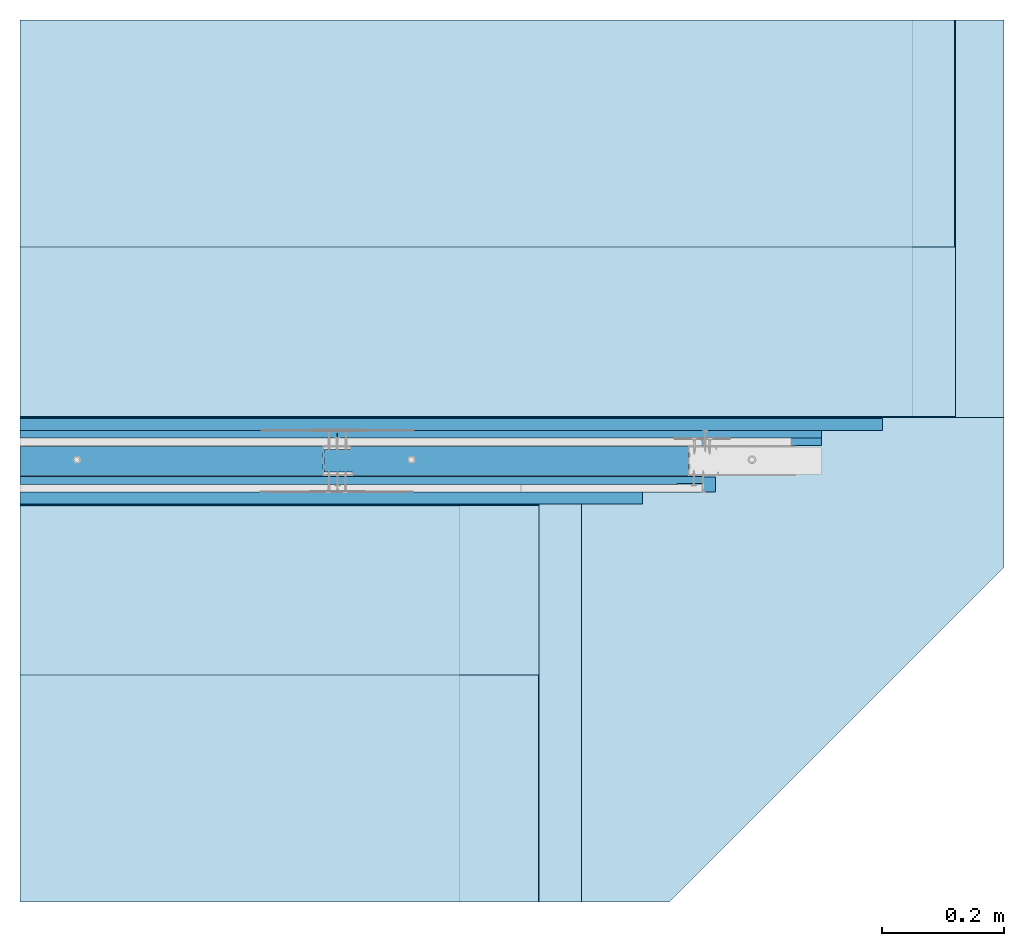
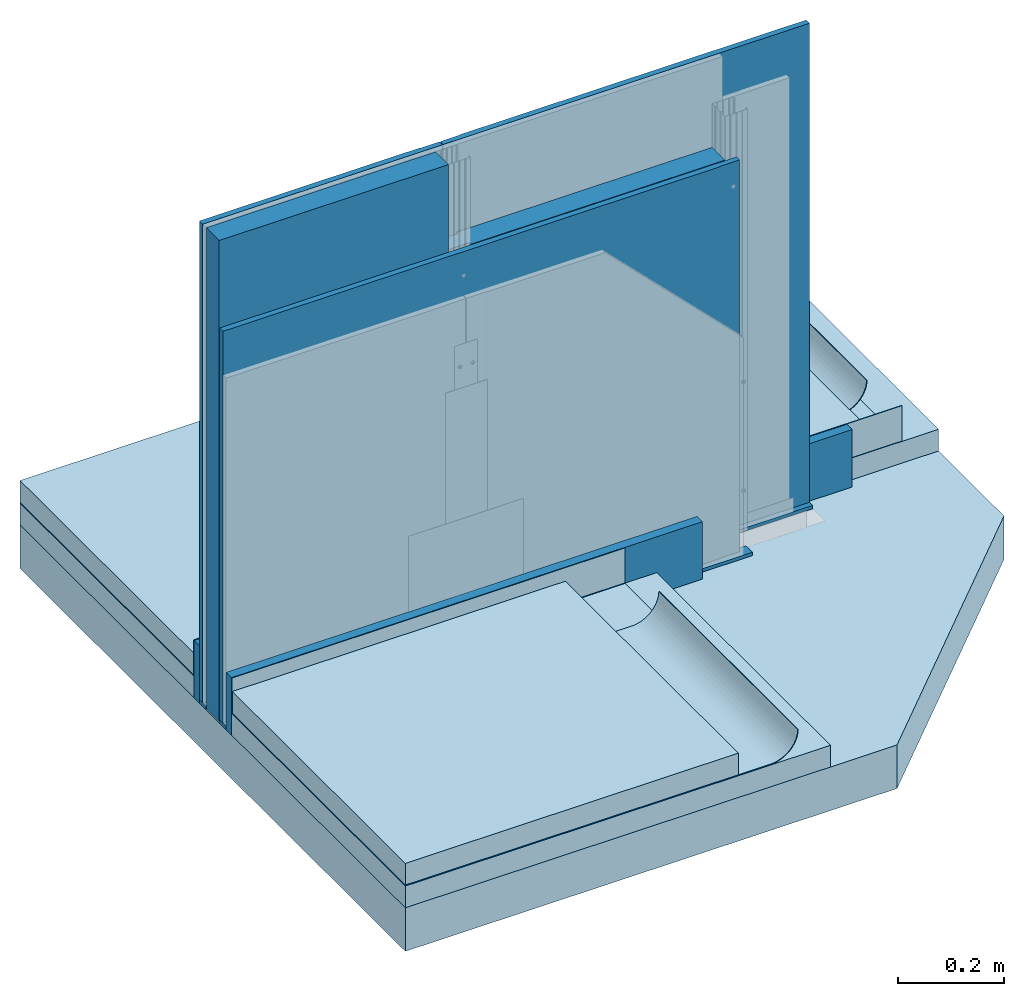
# One storey, part 1 of 37: 11 slabs, 7 walls.
"""IFC2X3 building model written with IfcOpenShell, lengths in millimetres."""

from ifc_helpers import new_model, entity, si_unit, converted_unit, direction, frame, origin, origin_with_axes, place, context, project, spatial, faceted_brep, element, save


model = new_model("IFC2X3")

# Units and contexts
model_context = context("Model", 3, precision=1e-05, world=origin(), true_north=direction((0.0, 1.0, 0.0)))
ifc_project = project(units=[si_unit("LENGTHUNIT", "METRE", prefix="MILLI"), si_unit("AREAUNIT", "SQUARE_METRE"), si_unit("VOLUMEUNIT", "CUBIC_METRE"), converted_unit("PLANEANGLEUNIT", "DEGREE", entity("IfcPlaneAngleMeasure", 0.01745), si_unit("PLANEANGLEUNIT", "RADIAN"), dimensions=[0, 0, 0, 0, 0, 0, 0]), si_unit("SOLIDANGLEUNIT", "STERADIAN"), si_unit("MASSUNIT", "GRAM"), si_unit("TIMEUNIT", "SECOND"), si_unit("THERMODYNAMICTEMPERATUREUNIT", "DEGREE_CELSIUS"), si_unit("LUMINOUSINTENSITYUNIT", "LUMEN")], contexts=[model_context])

# Site, building, storey
site_placement = place(None, origin_with_axes())
site = spatial("IfcSite", under=ifc_project, at=site_placement, Name="Default Site", CompositionType="ELEMENT")
building_placement = place(site_placement, origin_with_axes())
building = spatial("IfcBuilding", under=site, at=building_placement, Name="Default Building", CompositionType="ELEMENT")
storey_placement = place(building_placement, origin_with_axes())
storey = spatial("IfcBuildingStorey", under=building, at=storey_placement, Name="Default Building Storey", CompositionType="ELEMENT", Elevation=0.0)

# Slabs
slab_1_placement = place(storey_placement, frame((3516.951496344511, -1288.142300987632, 6.584025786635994), z_axis=(7.62017609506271e-14, 6.858158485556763e-13, 1.0), x_axis=(1.0, 9.714451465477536e-17, -7.62017609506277e-14)))
element("IfcSlab", 1, at=slab_1_placement, inside=storey, Name="STROP", context=model_context, shape_type="Brep", body=[
    faceted_brep([(226.0891218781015, 3110.283223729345, -4.200000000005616), (-323.9108781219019, 2560.283223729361, -4.200000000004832), (-323.9108781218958, 2560.283223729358, -104.1999999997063), (226.0891218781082, 3110.283223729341, -104.1999999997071), (-1391.926362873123, 2560.283223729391, -104.2000000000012), (-1391.926362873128, 2560.28322372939, -4.200000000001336), (-1391.926362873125, 4010.283223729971, -104.2000000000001), (226.0891218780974, 4010.283223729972, -104.2), (-1391.926362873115, 4010.283223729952, -4.199999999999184), (226.089121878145, 4010.283223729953, -4.200000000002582)], [[[0, 1, 2, 3]], [[4, 2, 1, 5]], [[6, 7, 3, 2, 4]], [[8, 5, 1, 0, 9]], [[0, 3, 7, 9]], [[6, 8, 9, 7]], [[6, 4, 5, 8]]]),
])
slab_2_placement = place(storey_placement, frame((3366.951496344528, -1288.14230098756, 158.5840257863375), z_axis=(7.620176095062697e-14, 6.858158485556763e-13, 1.0), x_axis=(1.0, 9.714451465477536e-17, -7.62017609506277e-14)))
element("IfcSlab", 2, at=slab_2_placement, inside=storey, Name="Wylewka betonowa WEBER", context=model_context, shape_type="Brep", body=[
    faceted_brep([(226.0891218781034, 3358.283223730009, -54.20000000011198), (-1241.926362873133, 3358.283223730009, -54.20000000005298), (-1241.926362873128, 3358.283223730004, -104.1999999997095), (226.0891218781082, 3358.283223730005, -104.1999999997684), (-1241.926362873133, 4010.283223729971, -104.2000000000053), (226.0891218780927, 4010.283223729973, -104.1999999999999), (-1241.926362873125, 4010.283223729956, -54.20000000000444), (226.0891218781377, 4010.283223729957, -54.20000000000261)], [[[0, 1, 2, 3]], [[4, 5, 3, 2]], [[6, 1, 0, 7]], [[0, 3, 5, 7]], [[4, 6, 7, 5]], [[4, 2, 1, 6]]]),
])
slab_3_placement = place(storey_placement, frame((3366.951496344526, -1288.142300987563, 106.5840257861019), z_axis=(7.620176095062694e-14, 6.858158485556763e-13, 1.0), x_axis=(1.0, 9.714451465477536e-17, -7.62017609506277e-14)))
element("IfcSlab", 3, at=slab_3_placement, inside=storey, Name="Wełna mineralna szklana lub skalna ISOVER", context=model_context, shape_type="Brep", body=[
    faceted_brep([(376.0891218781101, 3356.283223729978, -54.20000000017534), (-1241.926362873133, 3356.283223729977, -54.20000000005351), (-1241.926362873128, 3356.283223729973, -104.1999999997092), (376.0891218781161, 3356.283223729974, -104.1999999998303), (-1241.926362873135, 4010.283223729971, -104.2000000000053), (376.0891218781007, 4010.283223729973, -104.2000000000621), (-1241.926362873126, 4010.283223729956, -54.20000000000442), (376.0891218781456, 4010.283223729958, -54.20000000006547)], [[[0, 1, 2, 3]], [[4, 5, 3, 2]], [[6, 1, 0, 7]], [[0, 3, 5, 7]], [[4, 6, 7, 5]], [[4, 2, 1, 6]]]),
])
slab_4_placement = place(storey_placement, frame((2035.135384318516, 2067.140922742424, 112.3840257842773), z_axis=(-3.991906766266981e-16, -1.0, 7.606725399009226e-13), x_axis=(5.468922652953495e-13, -7.606725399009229e-13, -1.0)))
element("IfcSlab", 4, at=slab_4_placement, inside=storey, Name="Dylatacja ISOVER Twist", context=model_context, shape_type="Brep", body=[
    faceted_brep([(109.9999999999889, 89.88974915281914, 8.525771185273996e-15), (-21.99999999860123, 89.88974915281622, -1.43529706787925e-12), (-21.99999999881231, 1507.905233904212, -1.661758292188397e-12), (109.9999999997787, 1507.905233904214, 1.43020256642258e-13), (109.9999999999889, 89.88974915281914, 20.00000000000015), (109.9999999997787, 1507.905233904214, 20.00000000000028), (-21.99999999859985, 89.88974915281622, 19.99999999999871), (-21.99999999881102, 1507.905233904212, 19.99999999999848)], [[[0, 1, 2, 3]], [[4, 0, 3, 5]], [[6, 4, 5, 7]], [[1, 6, 7, 2]], [[2, 7, 5, 3]], [[6, 1, 0, 4]]]),
])
slab_5_placement = place(storey_placement, frame((2035.135384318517, 1946.180077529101, 112.3840257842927), z_axis=(-3.991906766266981e-16, -1.0, 7.606725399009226e-13), x_axis=(5.468922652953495e-13, -7.606725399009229e-13, -1.0)))
element("IfcSlab", 5, at=slab_5_placement, inside=storey, Name="Dylatacja ISOVER Twist", context=model_context, shape_type="Brep", body=[
    faceted_brep([(109.9999999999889, 89.88974915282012, 8.525771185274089e-15), (-21.99999999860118, 89.88974915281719, -1.43529706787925e-12), (-21.9999999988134, 1113.294264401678, -9.772745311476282e-13), (109.9999999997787, 1113.294264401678, 4.665483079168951e-13), (109.9999999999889, 89.88974915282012, 20.00000000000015), (109.9999999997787, 1113.294264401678, 20.00000000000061), (-21.99999999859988, 89.88974915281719, 19.99999999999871), (-21.99999999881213, 1113.294264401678, 19.99999999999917)], [[[0, 1, 2, 3]], [[4, 0, 3, 5]], [[6, 4, 5, 7]], [[1, 6, 7, 2]], [[2, 7, 5, 3]], [[6, 1, 0, 4]]]),
])
slab_6_placement = place(storey_placement, frame((2622.340526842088, -2087.142300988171, 158.5840257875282), z_axis=(7.620176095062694e-14, 6.858158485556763e-13, 1.0), x_axis=(1.0, 9.714451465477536e-17, -7.62017609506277e-14)))
element("IfcSlab", 6, at=slab_6_placement, inside=storey, Name="Wylewka betonowa WEBER", context=model_context, shape_type="Brep", body=[
    faceted_brep([(226.0891218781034, 3359.283223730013, -54.20000000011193), (-497.315393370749, 3359.283223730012, -54.20000000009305), (-497.3153933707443, 3359.283223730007, -104.1999999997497), (226.0891218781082, 3359.283223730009, -104.1999999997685), (-497.3153933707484, 4010.283223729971, -104.2000000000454), (226.0891218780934, 4010.283223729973, -104.1999999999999), (-497.3153933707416, 4010.283223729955, -54.20000000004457), (226.0891218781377, 4010.283223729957, -54.20000000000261)], [[[0, 1, 2, 3]], [[4, 5, 3, 2]], [[6, 1, 0, 7]], [[0, 3, 5, 7]], [[4, 6, 7, 5]], [[4, 2, 1, 6]]]),
])
slab_7_placement = place(storey_placement, frame((2672.340526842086, -2084.142300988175, 106.5840257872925), z_axis=(7.620176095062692e-14, 6.858158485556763e-13, 1.0), x_axis=(1.0, 9.714451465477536e-17, -7.62017609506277e-14)))
element("IfcSlab", 7, at=slab_7_placement, inside=storey, Name="Wełna mineralna szklana lub skalna ISOVER", context=model_context, shape_type="Brep", body=[
    faceted_brep([(376.0891218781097, 3356.283223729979, -54.20000000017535), (-547.3153933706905, 3356.283223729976, -54.20000000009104), (-547.3153933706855, 3356.283223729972, -104.1999999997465), (376.0891218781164, 3356.283223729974, -104.1999999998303), (-547.3153933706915, 4010.28322372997, -104.2000000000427), (376.0891218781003, 4010.283223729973, -104.2000000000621), (-547.3153933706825, 4010.283223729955, -54.20000000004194), (376.0891218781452, 4010.283223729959, -54.20000000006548)], [[[0, 1, 2, 3]], [[4, 5, 3, 2]], [[6, 1, 0, 7]], [[0, 3, 5, 7]], [[4, 6, 7, 5]], [[4, 2, 1, 6]]]),
])
slab_8_placement = place(storey_placement, frame((2978.429648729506, 1891.014848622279, 53.67691967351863), z_axis=(0.0, 0.0, 1.0), x_axis=(1.526556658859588e-16, -1.0, 0.0)))
element("IfcSlab", 8, at=slab_8_placement, inside=storey, Name="Folia budowlana PE ISOVER Stopair®", context=model_context, shape_type="Brep", body=[
    faceted_brep([(96.2168871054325, -60.9999999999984, 0.999999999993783), (618.8739258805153, -60.99999999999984, 0.9999999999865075), (618.8739258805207, -853.404515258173, 0.9999999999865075), (96.21688710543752, -853.4045152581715, 0.999999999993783), (96.21688710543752, -853.4045152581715, -6.215206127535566e-12), (618.8739258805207, -853.404515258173, -1.349071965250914e-11), (96.2168871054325, -52.16842846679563, 0.5133083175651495), (96.2168871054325, -59.99999999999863, -6.215206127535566e-12), (618.8739258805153, -60.00000000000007, -1.349071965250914e-11), (618.8739258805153, -52.16842846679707, 0.513308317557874), (96.2168871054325, -44.4708572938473, 2.044450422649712), (618.8739258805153, -44.47085729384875, 2.044450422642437), (96.2168871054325, -37.03899405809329, 4.56722804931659), (618.8739258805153, -37.03899405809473, 4.567228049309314), (96.2168871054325, -29.99999999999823, 8.038475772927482), (618.8739258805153, -29.99999999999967, 8.038475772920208), (96.2168871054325, -23.4743142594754, 12.39879958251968), (618.8739258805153, -23.47431425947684, 12.3987995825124), (96.2168871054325, -17.57359312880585, 17.57359312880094), (618.8739258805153, -17.57359312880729, 17.57359312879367), (96.2168871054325, -12.39879958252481, 23.47431425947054), (618.8739258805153, -12.39879958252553, 23.47431425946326), (96.2168871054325, -8.038475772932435, 29.99999999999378), (618.8739258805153, -8.038475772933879, 29.9999999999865), (96.21688710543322, -4.567228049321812, 37.03899405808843), (618.8739258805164, -4.567228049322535, 37.03899405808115), (96.21688710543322, -2.044450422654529, 44.47085729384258), (618.8739258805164, -2.044450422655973, 44.4708572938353), (96.21688710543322, -0.5133083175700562, 52.16842846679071), (618.8739258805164, -0.5133083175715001, 52.16842846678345), (96.21688710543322, 1.443822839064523e-12, 59.99999999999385), (618.8739258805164, 0.0, 59.99999999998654), (96.21688710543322, -1.065543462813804, 59.99999999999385), (618.8739258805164, -1.065543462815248, 59.99999999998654), (96.21688710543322, -1.513308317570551, 53.16842846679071), (618.8739258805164, -1.513308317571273, 53.16842846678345), (96.21688710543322, -3.044450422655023, 45.47085729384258), (618.8739258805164, -3.044450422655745, 45.4708572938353), (96.21688710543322, -5.567228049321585, 38.03899405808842), (618.8739258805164, -5.567228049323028, 38.03899405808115), (96.2168871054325, -9.038475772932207, 30.99999999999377), (618.8739258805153, -9.038475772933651, 30.9999999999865), (96.2168871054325, -13.39879958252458, 24.47431425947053), (618.8739258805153, -13.39879958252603, 24.47431425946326), (96.2168871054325, -18.57359312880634, 18.57359312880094), (618.8739258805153, -18.57359312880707, 18.57359312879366), (96.2168871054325, -24.47431425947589, 13.39879958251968), (618.8739258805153, -24.47431425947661, 13.3987995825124), (96.2168871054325, -30.99999999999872, 9.03847577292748), (618.8739258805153, -31.00000000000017, 9.038475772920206), (96.2168871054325, -38.03899405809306, 5.567228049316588), (618.8739258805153, -38.0389940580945, 5.567228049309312), (96.2168871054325, -45.47085729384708, 3.044450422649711), (618.8739258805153, -45.47085729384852, 3.044450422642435), (96.2168871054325, -53.1684284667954, 1.513308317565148), (618.8739258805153, -53.16842846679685, 1.513308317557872)], [[[0, 1, 2, 3]], [[4, 3, 2, 5]], [[6, 7, 8, 9]], [[10, 6, 9, 11]], [[12, 10, 11, 13]], [[14, 12, 13, 15]], [[16, 14, 15, 17]], [[18, 16, 17, 19]], [[20, 18, 19, 21]], [[22, 20, 21, 23]], [[24, 22, 23, 25]], [[26, 24, 25, 27]], [[28, 26, 27, 29]], [[30, 28, 29, 31]], [[32, 30, 31, 33]], [[34, 32, 33, 35]], [[36, 34, 35, 37]], [[38, 36, 37, 39]], [[40, 38, 39, 41]], [[42, 40, 41, 43]], [[44, 42, 43, 45]], [[46, 44, 45, 47]], [[48, 46, 47, 49]], [[50, 48, 49, 51]], [[52, 50, 51, 53]], [[54, 52, 53, 55]], [[0, 54, 55, 1]], [[7, 4, 5, 8]], [[8, 5, 2, 1, 55, 53, 51, 49, 47, 45, 43, 41, 39, 37, 35, 33, 31, 29, 27, 25, 23, 21, 19, 17, 15, 13, 11, 9]], [[4, 7, 6, 10, 12, 14, 16, 18, 20, 22, 24, 26, 28, 30, 32, 34, 36, 38, 40, 42, 44, 46, 48, 50, 52, 54, 0, 3]]]),
])
slab_9_placement = place(storey_placement, frame((3663.040618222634, 2102.704210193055, 53.67691967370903), z_axis=(0.0, 0.0, 1.0), x_axis=(-1.526556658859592e-16, 1.0, 0.0)))
element("IfcSlab", 9, at=slab_9_placement, inside=storey, Name="Folia budowlana PE ISOVER Stopair®", context=model_context, shape_type="Brep", body=[
    faceted_brep([(96.30438405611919, 60.9999999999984, 0.999999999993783), (619.4367125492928, 60.99999999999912, 0.9999999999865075), (619.4367125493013, 1538.01548475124, 0.9999999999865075), (96.30438405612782, 1538.015484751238, 0.999999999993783), (96.30438405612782, 1538.015484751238, -6.215206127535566e-12), (619.4367125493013, 1538.01548475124, -1.349071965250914e-11), (96.30438405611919, 52.16842846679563, 0.5133083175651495), (96.30438405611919, 59.99999999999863, -6.215206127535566e-12), (619.4367125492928, 59.99999999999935, -1.349071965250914e-11), (619.4367125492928, 52.16842846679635, 0.513308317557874), (96.30438405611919, 44.4708572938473, 2.044450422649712), (619.4367125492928, 44.47085729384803, 2.044450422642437), (96.30438405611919, 37.03899405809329, 4.56722804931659), (619.4367125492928, 37.03899405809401, 4.567228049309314), (96.30438405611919, 29.99999999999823, 8.038475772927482), (619.4367125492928, 29.99999999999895, 8.038475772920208), (96.30438405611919, 23.4743142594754, 12.39879958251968), (619.4367125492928, 23.47431425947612, 12.3987995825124), (96.30438405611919, 17.57359312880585, 17.57359312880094), (619.4367125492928, 17.57359312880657, 17.57359312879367), (96.30438405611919, 12.39879958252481, 23.47431425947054), (619.4367125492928, 12.39879958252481, 23.47431425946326), (96.30438405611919, 8.038475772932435, 29.99999999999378), (619.4367125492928, 8.038475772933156, 29.9999999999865), (96.30438405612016, 4.567228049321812, 37.03899405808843), (619.4367125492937, 4.567228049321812, 37.03899405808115), (96.30438405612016, 2.044450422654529, 44.47085729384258), (619.4367125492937, 2.044450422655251, 44.4708572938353), (96.30438405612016, 0.5133083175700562, 52.16842846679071), (619.4367125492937, 0.5133083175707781, 52.16842846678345), (96.30438405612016, -1.443822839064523e-12, 59.99999999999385), (619.4367125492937, -7.219114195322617e-13, 59.99999999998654), (96.30438405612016, 1.065543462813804, 59.99999999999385), (619.4367125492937, 1.065543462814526, 59.99999999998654), (96.30438405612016, 1.513308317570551, 53.16842846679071), (619.4367125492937, 1.513308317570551, 53.16842846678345), (96.30438405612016, 3.044450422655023, 45.47085729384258), (619.4367125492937, 3.044450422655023, 45.4708572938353), (96.30438405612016, 5.567228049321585, 38.03899405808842), (619.4367125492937, 5.567228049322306, 38.03899405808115), (96.30438405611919, 9.038475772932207, 30.99999999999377), (619.4367125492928, 9.038475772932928, 30.9999999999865), (96.30438405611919, 13.39879958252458, 24.47431425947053), (619.4367125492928, 13.3987995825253, 24.47431425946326), (96.30438405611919, 18.57359312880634, 18.57359312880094), (619.4367125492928, 18.57359312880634, 18.57359312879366), (96.30438405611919, 24.47431425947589, 13.39879958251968), (619.4367125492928, 24.47431425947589, 13.3987995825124), (96.30438405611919, 30.99999999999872, 9.03847577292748), (619.4367125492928, 30.99999999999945, 9.038475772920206), (96.30438405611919, 38.03899405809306, 5.567228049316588), (619.4367125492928, 38.03899405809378, 5.567228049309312), (96.30438405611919, 45.47085729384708, 3.044450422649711), (619.4367125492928, 45.4708572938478, 3.044450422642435), (96.30438405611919, 53.1684284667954, 1.513308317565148), (619.4367125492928, 53.16842846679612, 1.513308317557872)], [[[0, 1, 2, 3]], [[4, 3, 2, 5]], [[6, 7, 8, 9]], [[10, 6, 9, 11]], [[12, 10, 11, 13]], [[14, 12, 13, 15]], [[16, 14, 15, 17]], [[18, 16, 17, 19]], [[20, 18, 19, 21]], [[22, 20, 21, 23]], [[24, 22, 23, 25]], [[26, 24, 25, 27]], [[28, 26, 27, 29]], [[30, 28, 29, 31]], [[32, 30, 31, 33]], [[34, 32, 33, 35]], [[36, 34, 35, 37]], [[38, 36, 37, 39]], [[40, 38, 39, 41]], [[42, 40, 41, 43]], [[44, 42, 43, 45]], [[46, 44, 45, 47]], [[48, 46, 47, 49]], [[50, 48, 49, 51]], [[52, 50, 51, 53]], [[54, 52, 53, 55]], [[0, 54, 55, 1]], [[7, 4, 5, 8]], [[8, 5, 2, 1, 55, 53, 51, 49, 47, 45, 43, 41, 39, 37, 35, 33, 31, 29, 27, 25, 23, 21, 19, 17, 15, 13, 11, 9]], [[4, 7, 6, 10, 12, 14, 16, 18, 20, 22, 24, 26, 28, 30, 32, 34, 36, 38, 40, 42, 44, 46, 48, 50, 52, 54, 0, 3]]]),
])
slab_10_placement = place(storey_placement, frame((2125.025133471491, 1644.934243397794, 52.38402617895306), z_axis=(0.0, 0.0, 1.0), x_axis=(1.0, 0.0, 0.0)))
element("IfcSlab", 10, at=slab_10_placement, inside=storey, Name="Folia budowlana PE ISOVER Stopair®", context=model_context, shape_type="Brep", body=[
    faceted_brep([(853.4045152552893, 279.4795460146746, 1.500000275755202), (853.4045152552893, 279.3207717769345, 1.29289349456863), (5.690683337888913e-08, 279.3207717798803, 1.2928935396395), (5.690683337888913e-08, 279.4795460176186, 1.500000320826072), (853.4045152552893, 279.6133988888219, 2.000000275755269), (5.690683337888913e-08, 279.6133988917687, 2.000000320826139), (5.690683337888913e-08, 279.5793556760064, 1.741181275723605), (853.4045152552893, 279.5793556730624, 1.741181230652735), (853.4045152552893, 279.8719827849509, 0.03407444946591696), (853.4045152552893, 279.6133988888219, 2.757550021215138e-07), (5.759698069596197e-08, 279.6133988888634, 3.21610499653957e-07), (5.759698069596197e-08, 279.8719827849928, 0.03407449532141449), (853.4045152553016, 278.6143074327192, 2.757550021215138e-07), (853.4045152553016, 278.6143074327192, 1.000000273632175), (853.4045151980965, 0.0, 0.9999999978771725), (853.4045151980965, 0.0, 0.0), (126.6531513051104, 278.6143074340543, 3.166132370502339e-07), (0.0, 1.976232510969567e-09, 0.0), (5.720570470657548e-08, 278.614307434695, 2.757550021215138e-07), (853.4045152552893, 280.6124903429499, 1.000000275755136), (853.4045152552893, 280.5784471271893, 0.7411812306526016), (5.759698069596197e-08, 280.5784471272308, 0.7411812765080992), (5.759698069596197e-08, 280.6124903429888, 1.000000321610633), (5.690683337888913e-08, 279.1138531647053, 1.13397491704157), (5.690683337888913e-08, 278.8728913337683, 1.03407449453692), (5.720570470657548e-08, 278.6143074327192, 1.000000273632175), (5.755944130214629e-08, 278.6143074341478, 0.05397219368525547), (5.759698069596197e-08, 280.1129446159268, 0.1339749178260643), (5.759698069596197e-08, 280.3198632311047, 0.2928935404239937), (5.759698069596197e-08, 280.478637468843, 0.5000003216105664), (5.759698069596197e-08, 280.6124903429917, 2.000000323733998), (853.4045152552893, 279.1138531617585, 1.1339748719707), (853.4045152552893, 278.8728913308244, 1.034074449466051), (853.4045152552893, 280.112944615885, 0.1339748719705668), (853.4045152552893, 280.3198632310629, 0.2928934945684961), (853.4045152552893, 280.4786374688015, 0.5000002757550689), (853.4045152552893, 280.6124903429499, 2.000000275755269), (0.0, 0.0, 0.9999999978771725), (5.321136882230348e-08, 280.6124896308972, 81.99999960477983), (853.4045152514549, 280.6124896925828, 81.9999996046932), (853.404515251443, 279.6133982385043, 81.99999960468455), (5.719776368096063e-08, 279.6133985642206, 81.99999960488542)], [[[0, 1, 2, 3]], [[4, 5, 6, 7]], [[8, 9, 10, 11]], [[12, 13, 14, 15]], [[16, 12, 15, 17, 18]], [[19, 20, 21, 22]], [[5, 6, 3, 2, 23, 24, 25, 26, 18, 10, 11, 27, 28, 29, 21, 22, 30]], [[4, 7, 0, 1, 31, 32, 13, 12, 9, 8, 33, 34, 35, 20, 19, 36]], [[1, 31, 23, 2]], [[31, 32, 24, 23]], [[18, 10, 9, 12, 16]], [[25, 26, 18, 17, 37]], [[36, 19, 22, 30]], [[34, 33, 27, 28]], [[33, 8, 11, 27]], [[13, 25, 37, 14]], [[15, 14, 37, 17]], [[38, 39, 36, 30]], [[20, 35, 29, 21]], [[40, 4, 36, 39]], [[38, 41, 5, 30]], [[5, 4, 40, 41]], [[41, 40, 39, 38]], [[35, 34, 28, 29]], [[32, 13, 25, 24]], [[7, 0, 3, 6]]]),
])
slab_11_placement = place(storey_placement, frame((2125.02513347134, 2068.140922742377, 52.38402617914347), z_axis=(0.0, 0.0, 1.0), x_axis=(1.0, 0.0, 0.0)))
element("IfcSlab", 11, at=slab_11_placement, inside=storey, Name="Folia budowlana PE ISOVER Stopair®", context=model_context, shape_type="Brep", body=[
    faceted_brep([(1538.015484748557, 0.2928932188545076, 0.2928934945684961), (1538.015484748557, 0.133974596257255, 0.5000002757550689), (1.038014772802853e-07, 0.1339745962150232, 0.5000003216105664), (1.038014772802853e-07, 0.2928932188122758, 0.2928935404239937), (1538.015484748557, 2.000000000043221, 1.000000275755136), (1538.015484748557, 2.000000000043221, 2.757550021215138e-07), (1538.015484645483, 280.8676715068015, 0.0), (1538.015484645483, 280.8676715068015, 0.9999999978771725), (1538.015484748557, 0.7411809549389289, 0.03407444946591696), (1538.015484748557, 0.5000000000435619, 0.1339748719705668), (1.038014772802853e-07, 0.5000000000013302, 0.1339749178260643), (1.038014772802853e-07, 0.7411809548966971, 0.03407449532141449), (1538.015484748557, 0.03407417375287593, 0.7411812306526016), (1538.015484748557, 4.223181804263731e-11, 1.000000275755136), (1.038014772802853e-07, 2.887645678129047e-12, 1.000000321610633), (1.038014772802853e-07, 0.03407417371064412, 0.7411812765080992), (1538.015484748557, 1.133974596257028, 1.500000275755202), (1538.015484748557, 1.034074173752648, 1.741181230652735), (1.025583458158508e-07, 1.034074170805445, 1.741181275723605), (1.025583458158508e-07, 1.133974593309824, 1.500000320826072), (1538.015484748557, 1.000000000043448, 2.757550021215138e-07), (1.038014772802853e-07, 1.000000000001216, 3.21610499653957e-07), (1.025583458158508e-07, 0.9999999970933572, 2.000000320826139), (1.038014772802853e-07, 0.0, 2.000000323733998), (1.038014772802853e-07, 2.000000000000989, 3.237337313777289e-07), (1.037347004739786e-07, 2.000000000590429, 0.05380610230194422), (1.025583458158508e-07, 1.99999999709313, 1.000000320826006), (1.025583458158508e-07, 1.741180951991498, 1.03407449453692), (1.025583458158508e-07, 1.499999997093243, 1.13397491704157), (1.025583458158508e-07, 1.292893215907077, 1.2928935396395), (1538.01548474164, 6.510031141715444e-07, 81.9999996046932), (9.589149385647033e-08, 7.12744588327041e-07, 81.99999960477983), (1538.015484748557, 4.223181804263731e-11, 2.000000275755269), (1538.015484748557, 1.000000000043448, 2.000000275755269), (1.030752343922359e-07, 1.000000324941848, 81.99999960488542), (1538.015484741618, 1.000000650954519, 81.99999960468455), (1538.015484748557, 1.292893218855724, 1.29289349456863), (1538.015484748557, 1.500000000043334, 1.1339748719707), (1538.015484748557, 1.741180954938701, 1.034074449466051), (0.0, 280.8676715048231, 0.0), (0.0, 280.8676715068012, 0.9999999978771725), (227.5533463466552, 2.000000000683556, 3.166351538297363e-07)], [[[0, 1, 2, 3]], [[4, 5, 6, 7]], [[8, 9, 10, 11]], [[12, 13, 14, 15]], [[9, 0, 3, 10]], [[16, 17, 18, 19]], [[20, 8, 11, 21]], [[18, 22, 23, 14, 15, 2, 3, 10, 11, 21, 24, 25, 26, 27, 28, 29, 19]], [[30, 31, 23, 32]], [[33, 22, 34, 35]], [[36, 16, 19, 29]], [[34, 31, 23, 22]], [[37, 36, 29, 28]], [[4, 38, 27, 26]], [[7, 6, 39, 40]], [[25, 26, 40, 39, 24]], [[13, 32, 23, 14]], [[1, 12, 15, 2]], [[22, 33, 17, 18]], [[38, 37, 28, 27]], [[26, 4, 7, 40]], [[21, 24, 41, 5, 20]], [[17, 33, 32, 13, 12, 1, 0, 9, 8, 20, 5, 4, 38, 37, 36, 16]], [[5, 41, 24, 39, 6]], [[33, 35, 30, 32]], [[35, 34, 31, 30]]]),
])

# Walls
wall_1_placement = place(storey_placement, frame((2646.429648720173, 2034.640922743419, 1059.999999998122), z_axis=(0.0, 0.0, 1.0), x_axis=(-1.0, 0.0, 0.0)))
element("IfcWall", 12, at=wall_1_placement, inside=storey, Name="Płyta gipsowo-kartonowa RIGIPS PRO (4PRO™)", context=model_context, shape_type="Brep", body=[
    faceted_brep([(521.4045152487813, -12.4999999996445, 50.00000000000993), (521.4045152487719, 3.277477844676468e-10, 50.00000000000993), (521.404515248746, 3.241382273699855e-10, -1050.001581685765), (521.4045152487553, -12.49999999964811, -1050.001581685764), (44.99999999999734, -12.50000000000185, 50.00000000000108), (40.99999999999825, -11.50000000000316, 50.00000000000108), (0.9999999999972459, -11.50000000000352, 50.00000000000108), (0.7411809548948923, -11.46592582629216, 50.00000000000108), (0.4999999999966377, -11.36602540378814, 50.00000000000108), (0.2928932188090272, -11.20710678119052, 50.00000000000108), (0.1339745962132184, -11.00000000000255, 50.00000000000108), (0.0340741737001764, -10.75881904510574, 50.00000000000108), (-3.248601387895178e-12, -10.50000000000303, 50.00000000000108), (-1.082867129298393e-12, 3.609557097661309e-13, 50.00000000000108), (44.99999999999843, -12.50000000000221, -1050.001581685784), (40.99999999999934, -11.50000000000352, -1050.001581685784), (0.9999999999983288, -11.50000000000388, -1050.001581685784), (0.7411809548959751, -11.46592582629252, -1050.001581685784), (0.4999999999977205, -11.3660254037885, -1050.001581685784), (0.29289321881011, -11.20710678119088, -1050.001581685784), (0.1339745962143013, -11.00000000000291, -1050.001581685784), (0.03407417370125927, -10.7588190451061, -1050.001581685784), (-2.165734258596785e-12, -10.50000000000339, -1050.001581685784), (0.0, 0.0, -1050.001581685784)], [[[0, 1, 2, 3]], [[0, 4, 5, 6, 7, 8, 9, 10, 11, 12, 13, 1]], [[3, 14, 4, 0]], [[5, 4, 14, 15]], [[6, 5, 15, 16]], [[7, 6, 16, 17]], [[8, 7, 17, 18]], [[9, 8, 18, 19]], [[10, 9, 19, 20]], [[11, 10, 20, 21]], [[12, 11, 21, 22]], [[13, 12, 22, 23]], [[2, 1, 13, 23]], [[14, 3, 2, 23, 22, 21, 20, 19, 18, 17, 16, 15]]]),
])
wall_2_placement = place(storey_placement, frame((3443.040618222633, 2022.494753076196, 2.384025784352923), z_axis=(0.0, 0.0, 1.0), x_axis=(1.0, 0.0, 0.0)))
element("IfcWall", 13, at=wall_2_placement, inside=storey, Name="Dedykowana masa szpachlowa Rigips - konstrukcyjna", context=model_context, shape_type="Brep", body=[
    faceted_brep([(0.0, 24.6461696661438, 0.0), (0.0, 0.0, 0.0), (-1318.015484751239, 0.0, 0.0), (-1318.015484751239, 24.6461696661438, 0.0), (0.0, 0.0, 7.614392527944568), (-1318.015484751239, 0.0, 7.614392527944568), (0.0, 24.6461696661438, 7.614392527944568), (-1318.015484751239, 24.6461696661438, 7.614392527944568)], [[[0, 1, 2, 3]], [[1, 4, 5, 2]], [[4, 6, 7, 5]], [[6, 0, 3, 7]], [[7, 3, 2, 5]], [[0, 6, 4, 1]]]),
])
wall_3_placement = place(storey_placement, frame((2647.429648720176, 2034.640922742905, 1059.999999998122), z_axis=(0.0, 0.0, 1.0), x_axis=(1.0, 0.0, 0.0)))
element("IfcWall", 14, at=wall_3_placement, inside=storey, Name="Płyta gipsowo-kartonowa RIGIPS PRO (4PRO™)", context=model_context, shape_type="Brep", body=[
    faceted_brep([(795.6109695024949, 12.49999999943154, 49.99999999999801), (795.6109695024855, -5.40711653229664e-10, 49.99999999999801), (795.6109695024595, -5.371020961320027e-10, -1050.001581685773), (795.6109695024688, 12.49999999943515, -1050.001581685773), (44.99999999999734, 12.50000000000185, 50.00000000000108), (40.99999999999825, 11.50000000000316, 50.00000000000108), (0.9999999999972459, 11.50000000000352, 50.00000000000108), (0.7411809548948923, 11.46592582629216, 50.00000000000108), (0.4999999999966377, 11.36602540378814, 50.00000000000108), (0.2928932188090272, 11.20710678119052, 50.00000000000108), (0.1339745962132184, 11.00000000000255, 50.00000000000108), (0.0340741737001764, 10.75881904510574, 50.00000000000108), (-3.248601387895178e-12, 10.50000000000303, 50.00000000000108), (-1.082867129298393e-12, -3.609557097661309e-13, 50.00000000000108), (44.99999999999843, 12.50000000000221, -1050.001581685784), (40.99999999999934, 11.50000000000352, -1050.001581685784), (0.9999999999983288, 11.50000000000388, -1050.001581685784), (0.7411809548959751, 11.46592582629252, -1050.001581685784), (0.4999999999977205, 11.3660254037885, -1050.001581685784), (0.29289321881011, 11.20710678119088, -1050.001581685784), (0.1339745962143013, 11.00000000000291, -1050.001581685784), (0.03407417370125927, 10.7588190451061, -1050.001581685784), (-2.165734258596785e-12, 10.50000000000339, -1050.001581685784), (0.0, 0.0, -1050.001581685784)], [[[0, 1, 2, 3]], [[0, 4, 5, 6, 7, 8, 9, 10, 11, 12, 13, 1]], [[3, 14, 4, 0]], [[5, 4, 14, 15]], [[6, 5, 15, 16]], [[7, 6, 16, 17]], [[8, 7, 17, 18]], [[9, 8, 18, 19]], [[10, 9, 19, 20]], [[11, 10, 20, 21]], [[12, 11, 21, 22]], [[13, 12, 22, 23]], [[2, 1, 13, 23]], [[14, 3, 2, 23, 22, 21, 20, 19, 18, 17, 16, 15]]]),
])
wall_4_placement = place(storey_placement, frame((2786.490947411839, 5452.424146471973, 8.800611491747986), z_axis=(0.0, 0.0, 1.0), x_axis=(1.0, 0.0, 0.0)))
element("IfcWall", 15, at=wall_4_placement, inside=storey, Name="Wełna mineralna szklana lub skalna ISOVER", context=model_context, shape_type="Brep", body=[
    faceted_brep([(-161.2958819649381, -3473.633223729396, -3.060216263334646), (-161.2958819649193, -3473.633223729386, 901.1993885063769), (-114.6214102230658, -3473.633223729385, 901.1993885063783), (-114.6214102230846, -3473.633223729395, -3.060216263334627), (-114.6214102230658, -3479.633223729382, 901.1993885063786), (-114.6214102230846, -3479.633223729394, -3.060216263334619), (-161.2958819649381, -3436.833223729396, -3.060216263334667), (-161.2958819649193, -3436.833223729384, 901.1993885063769), (-117.6214102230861, -3436.833223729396, -3.060216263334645), (-117.6214102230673, -3436.833223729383, 901.199388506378), (-117.6214102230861, -3431.283223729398, -3.060216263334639), (437.5658080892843, -3431.283223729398, -3.060216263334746), (437.5658080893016, -3431.283223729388, 901.1993885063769), (-117.6214102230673, -3431.283223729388, 901.1993885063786), (437.5658080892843, -3479.633223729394, -3.060216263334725), (437.5658080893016, -3479.633223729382, 901.1993885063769)], [[[0, 1, 2, 3]], [[3, 2, 4, 5]], [[1, 0, 6, 7]], [[7, 6, 8, 9]], [[10, 11, 12, 13]], [[9, 8, 10, 13]], [[3, 5, 14, 11, 10, 8, 6, 0]], [[4, 15, 14, 5]], [[15, 4, 2, 1, 7, 9, 13, 12]], [[14, 15, 12, 11]]]),
])
wall_5_placement = place(storey_placement, frame((2172.059826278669, 5452.424146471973, 8.672137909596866), z_axis=(0.0, 0.0, 1.0), x_axis=(1.0, 0.0, 0.0)))
element("IfcWall", 16, at=wall_5_placement, inside=storey, Name="Wełna mineralna szklana lub skalna ISOVER", context=model_context, shape_type="Brep", body=[
    faceted_brep([(-47.03469280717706, -3431.283223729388, 1101.327862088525), (-47.0346928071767, -3479.633223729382, 1101.327862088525), (-47.03469280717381, -3479.633223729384, -2.931742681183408), (-47.03469280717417, -3431.283223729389, -2.931742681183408), (450.8097109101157, -3431.283223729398, -2.931742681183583), (450.8097109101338, -3431.283223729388, 1101.327862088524), (450.8097109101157, -3479.633223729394, -2.931742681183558), (450.8097109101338, -3479.633223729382, 1101.327862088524)], [[[0, 1, 2, 3]], [[3, 4, 5, 0]], [[2, 6, 4, 3]], [[2, 1, 7, 6]], [[0, 5, 7, 1]], [[6, 7, 5, 4]]]),
])
wall_6_placement = place(storey_placement, frame((3268.31475601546, 1946.180077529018, 2.384025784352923), z_axis=(0.0, 0.0, 1.0), x_axis=(1.0, 0.0, 0.0)))
element("IfcWall", 17, at=wall_6_placement, inside=storey, Name="Dedykowana masa szpachlowa Rigips - konstrukcyjna", context=model_context, shape_type="Brep", body=[
    faceted_brep([(0.0, 24.6461696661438, 0.0), (0.0, 0.0, 0.0), (-1143.289622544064, 0.0, 0.0), (-1143.289622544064, 24.6461696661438, 0.0), (0.0, 0.0, 7.614392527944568), (-1143.289622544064, 0.0, 7.614392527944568), (0.0, 24.6461696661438, 7.614392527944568), (-1143.289622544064, 24.6461696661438, 7.614392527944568)], [[[0, 1, 2, 3]], [[1, 4, 5, 2]], [[4, 6, 7, 5]], [[6, 0, 3, 7]], [[7, 3, 2, 5]], [[0, 6, 4, 1]]]),
])
wall_7_placement = place(storey_placement, frame((2048.4296487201, 1971.180077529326, 1159.999999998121), z_axis=(0.0, 0.0, 1.0), x_axis=(1.0, 0.0, 0.0)))
element("IfcWall", 18, at=wall_7_placement, inside=storey, Name="Płyta gipsowo-kartonowa RIGIPS PRO (4PRO™)", context=model_context, shape_type="Brep", body=[
    faceted_brep([(76.59548475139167, 0.0, -249.9999999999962), (76.59548475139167, -12.50000000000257, -249.9999999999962), (76.59548475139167, -12.50000000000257, -1150.001581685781), (76.59548475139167, 0.0, -1150.001581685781), (1200.0, 0.0, -249.9999999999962), (1200.000000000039, -10.49999999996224, -249.9999999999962), (1199.965925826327, -10.75881904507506, -249.9999999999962), (1199.866025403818, -10.99999999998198, -249.9999999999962), (1199.707106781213, -11.20710678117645, -249.9999999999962), (1199.50000000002, -11.36602540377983, -249.9999999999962), (1199.258819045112, -11.46592582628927, -249.9999999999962), (1199.0, -11.50000000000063, -249.9999999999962), (1158.999999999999, -11.50000000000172, -249.9999999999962), (1155.000000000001, -12.49999999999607, -249.9999999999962), (1199.965925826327, -10.75881904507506, -1150.001581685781), (1199.866025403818, -10.99999999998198, -1150.001581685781), (1199.707106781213, -11.20710678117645, -1150.001581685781), (1199.50000000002, -11.36602540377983, -1150.001581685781), (1199.258819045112, -11.46592582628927, -1150.001581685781), (1199.0, -11.50000000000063, -1150.001581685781), (1158.999999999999, -11.50000000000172, -1150.001581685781), (1155.000000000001, -12.49999999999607, -1150.001581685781), (1200.0, 0.0, -1150.001581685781), (1200.000000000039, -10.49999999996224, -1150.001581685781)], [[[0, 1, 2, 3]], [[0, 4, 5, 6, 7, 8, 9, 10, 11, 12, 13, 1]], [[7, 6, 14, 15]], [[8, 7, 15, 16]], [[9, 8, 16, 17]], [[10, 9, 17, 18]], [[11, 10, 18, 19]], [[12, 11, 19, 20]], [[13, 12, 20, 21]], [[2, 1, 13, 21]], [[3, 22, 4, 0]], [[5, 4, 22, 23]], [[6, 5, 23, 14]], [[14, 23, 22, 3, 2, 21, 20, 19, 18, 17, 16, 15]]]),
])

save(model, "model.ifc")
